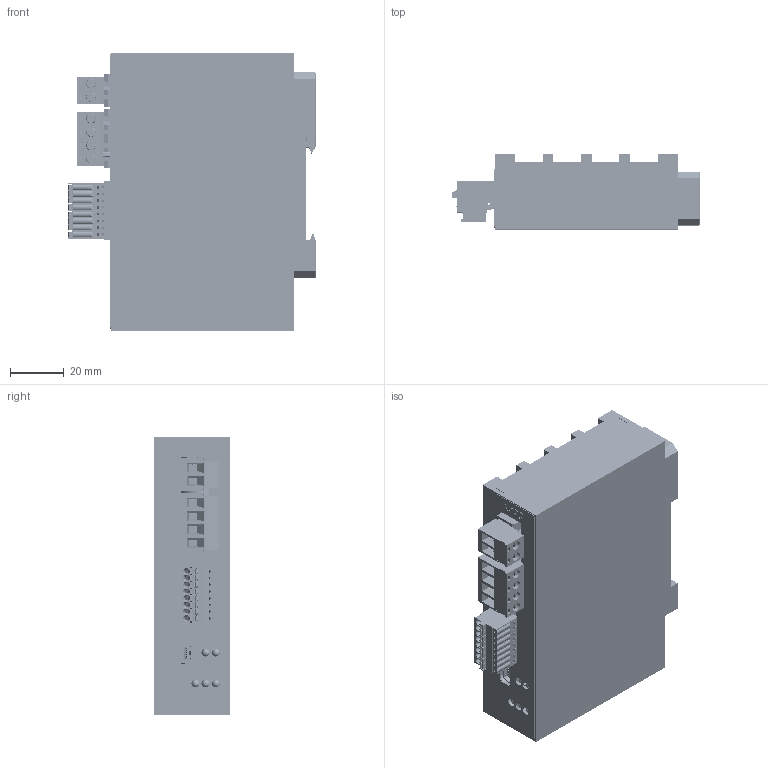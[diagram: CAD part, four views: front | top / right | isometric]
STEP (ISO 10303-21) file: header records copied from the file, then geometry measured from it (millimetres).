
FILE_DESCRIPTION(/* description */ (''),/* implementation_level */ '2;1');
FILE_NAME(/* name */ 'P:\1044_mini_LED_driver\15_Lightning_12F\Mech drawings\180515\Lightning_12F.stp',/* time_stamp */ '2018-12-04T15:11:53+01:00',/* author */ ('User'),/* organization */ (''),/* preprocessor_version */ 'ST-DEVELOPER v16.5',/* originating_system */ 'Autodesk Inventor 2017',/* authorisation */ '');
FILE_SCHEMA (('AUTOMOTIVE_DESIGN { 1 0 10303 214 3 1 1 }'));
Products named in the file (1): Lightning_12F
Bounding box: 91.76 x 28 x 103 mm (x, y, z)
Volume: 120049.1 mm3; surface area: 93392.7 mm2
Topology: 144 solids, 153 shells, 17576 faces, 47128 edges, 28870 vertices
Faces by surface type: plane 10986, cylinder 4939, sphere 1035, torus 415, bspline 112, cone 89
Full cylindrical faces by diameter (mm): 0.05 x38, 0.25 x9, 0.3 x4, 0.35 x2, 0.4 x7, 0.434 x1, 0.585 x1, 0.6 x8, 0.66 x1, 0.75 x7, 0.9 x12, 1.05 x1, 1.3 x8, 1.4 x2, 1.5 x1, 1.8 x8, 2.4 x4, 2.459 x4, 2.5 x4, 2.7 x18, 2.75 x4, 3 x5, 3.2 x8, 3.242 x2, 3.5 x6, 4 x3, 6 x5, 7.5 x1, 9 x2, 9.375 x3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
Entity records: 558488 total; most frequent: CARTESIAN_POINT 104093, ORIENTED_EDGE 91566, DIRECTION 91394, EDGE_CURVE 45763, LINE 34280, VECTOR 34280, VERTEX_POINT 28726, AXIS2_PLACEMENT_3D 28557
